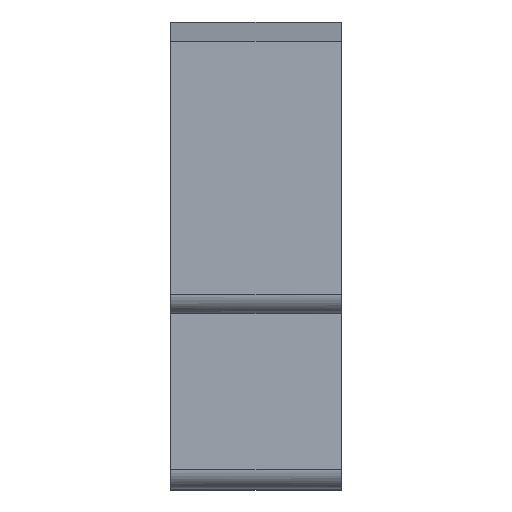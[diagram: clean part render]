
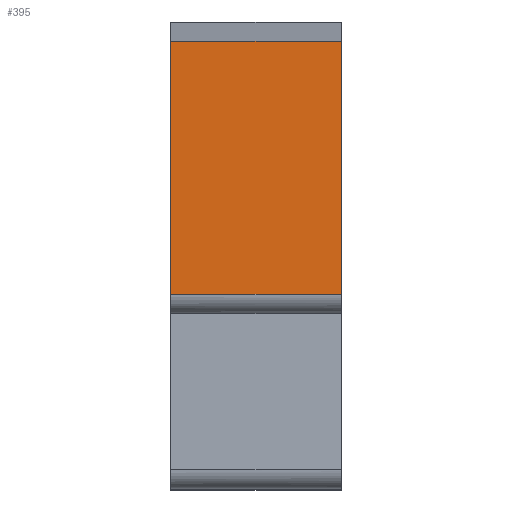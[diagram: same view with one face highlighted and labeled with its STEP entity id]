
A CAD part, top view. The second image highlights one B-rep face of the part: STEP entity #395.
In plain terms, the highlighted planar face has unit normal (0, 0, 1).
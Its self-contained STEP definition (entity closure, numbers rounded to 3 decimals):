
#395=ADVANCED_FACE('',(#719),#5096,.T.);
#719=FACE_OUTER_BOUND('',#1059,.T.);
#1059=EDGE_LOOP('',(#2472,#2473,#2474,#2475));
#2472=ORIENTED_EDGE('',*,*,#3454,.T.);
#2473=ORIENTED_EDGE('',*,*,#3453,.F.);
#2474=ORIENTED_EDGE('',*,*,#3455,.T.);
#2475=ORIENTED_EDGE('',*,*,#3401,.F.);
#3401=EDGE_CURVE('',#4740,#4741,#4195,.T.);
#3453=EDGE_CURVE('',#4774,#4773,#4240,.T.);
#3454=EDGE_CURVE('',#4740,#4773,#4241,.T.);
#3455=EDGE_CURVE('',#4774,#4741,#4242,.T.);
#4195=B_SPLINE_CURVE_WITH_KNOTS('',1,(#8824,#8825),.UNSPECIFIED.,.F.,.F.,
(2,2),(0.,17.5),.UNSPECIFIED.);
#4240=B_SPLINE_CURVE_WITH_KNOTS('',1,(#8935,#8936),.UNSPECIFIED.,.F.,.F.,
(2,2),(-17.5,0.),.UNSPECIFIED.);
#4241=B_SPLINE_CURVE_WITH_KNOTS('',1,(#8937,#8938),.UNSPECIFIED.,.F.,.F.,
(2,2),(-26.,0.),.UNSPECIFIED.);
#4242=B_SPLINE_CURVE_WITH_KNOTS('',1,(#8939,#8940),.UNSPECIFIED.,.F.,.F.,
(2,2),(0.,26.),.UNSPECIFIED.);
#4740=VERTEX_POINT('',#6804);
#4741=VERTEX_POINT('',#6805);
#4773=VERTEX_POINT('',#6837);
#4774=VERTEX_POINT('',#6838);
#5096=PLANE('',#5508);
#5508=AXIS2_PLACEMENT_3D('',#6354,#5835,$);
#5835=DIRECTION('',(0.,0.,1.));
#6354=CARTESIAN_POINT('',(489.37,584.459,54.75));
#6804=CARTESIAN_POINT('',(489.36,584.469,54.75));
#6805=CARTESIAN_POINT('',(471.86,584.469,54.75));
#6837=CARTESIAN_POINT('',(489.36,610.469,54.75));
#6838=CARTESIAN_POINT('',(471.86,610.469,54.75));
#8824=CARTESIAN_POINT('',(489.36,584.469,54.75));
#8825=CARTESIAN_POINT('',(471.86,584.469,54.75));
#8935=CARTESIAN_POINT('',(471.86,610.469,54.75));
#8936=CARTESIAN_POINT('',(489.36,610.469,54.75));
#8937=CARTESIAN_POINT('',(489.36,584.469,54.75));
#8938=CARTESIAN_POINT('',(489.36,610.469,54.75));
#8939=CARTESIAN_POINT('',(471.86,610.469,54.75));
#8940=CARTESIAN_POINT('',(471.86,584.469,54.75));
